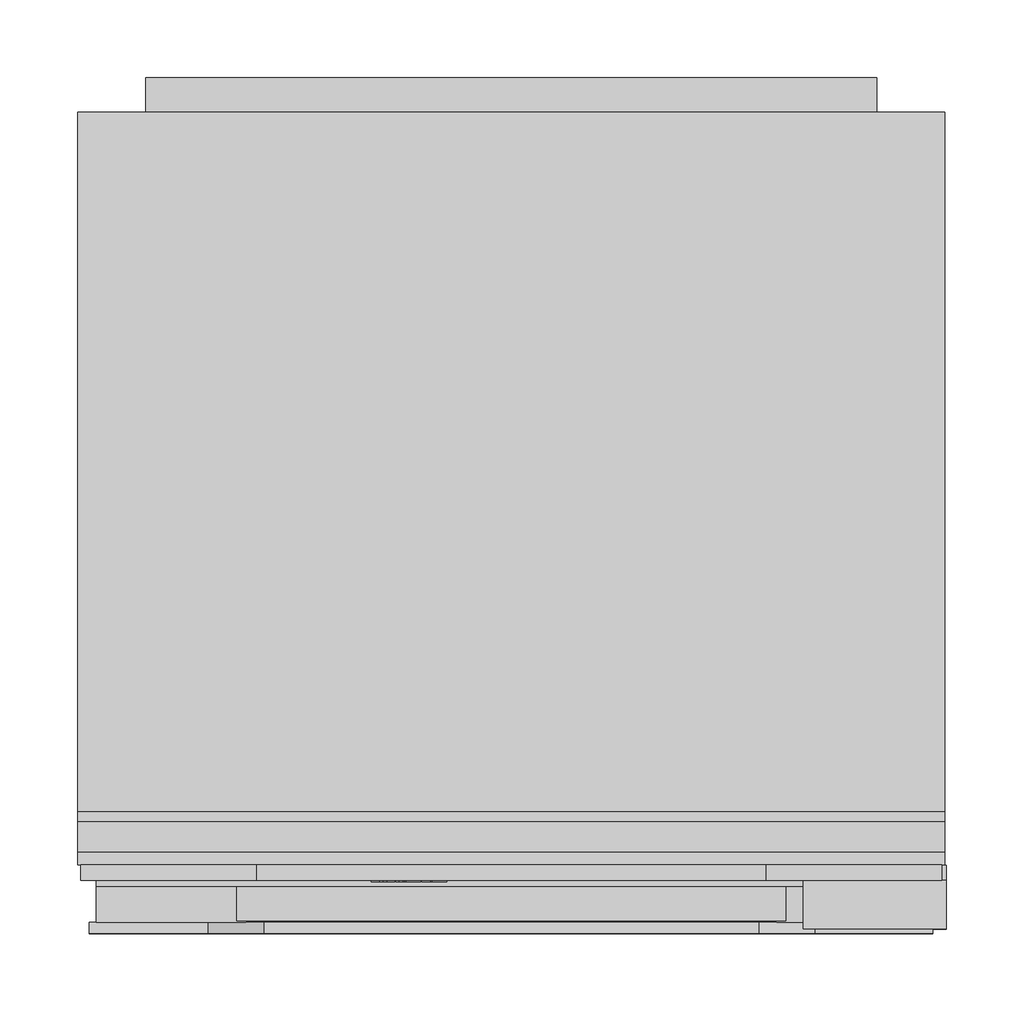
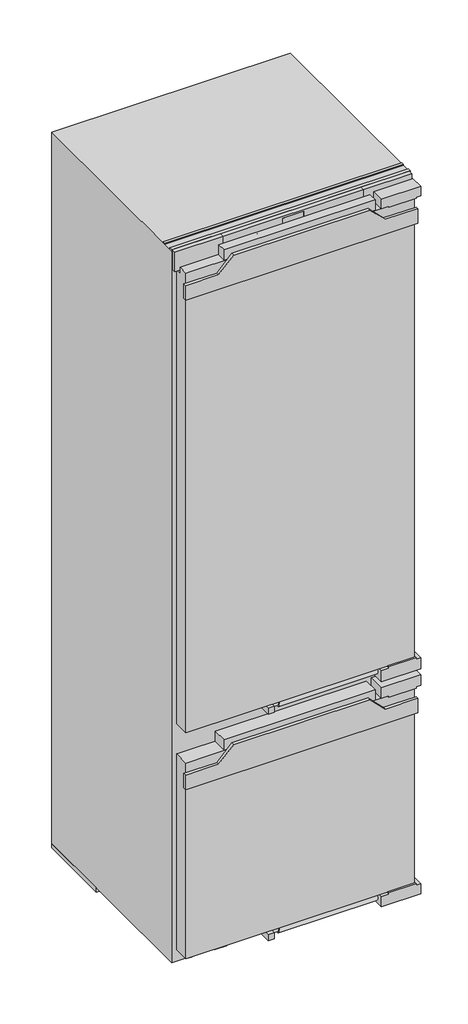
# Not in any storey: 1 proxy.
"""IFC4 building model written with IfcOpenShell, lengths in millimetres."""

import ifcopenshell
import ifcopenshell.guid

model = None  # the IFC model being written
_history = None  # IfcOwnerHistory: only IFC2X3 demands one
_inside = {}  # id of a spatial element -> (the spatial element, [elements in it])
_under = {}  # id of a project, library or spatial element -> (it, [spatial elements below it])
_declared = {}  # id of a project -> (the project, [libraries it declares])
_typed = {}  # id of a type object -> (the type object, [elements of that type])
_made_of = {}  # id of a material, layer set ... -> (it, [elements and type objects made of it])


def new_model(schema):
    """Start an empty IFC model of exactly this schema.

    Asked for "IFC4X3", IfcOpenShell would pick the latest addendum, in which some entities
    have other attributes; the version numbers below select the first issue.
    IFC2X3 requires an IfcOwnerHistory on every rooted entity: one is made here for all.
    """
    global model, _history
    if schema == "IFC4X3":
        model = ifcopenshell.file(schema_version=(4, 3, 0, 0))
    else:
        model = ifcopenshell.file(schema=schema)
    _inside.clear()
    _under.clear()
    _declared.clear()
    _typed.clear()
    _made_of.clear()
    _history = None
    if model.schema == "IFC2X3":
        org = make("IfcOrganization", Name="unknown")
        user = make(
            "IfcPersonAndOrganization",
            ThePerson=make("IfcPerson", FamilyName="unknown"),
            TheOrganization=org,
        )
        app = make(
            "IfcApplication",
            ApplicationDeveloper=org,
            Version="unknown",
            ApplicationFullName="unknown",
            ApplicationIdentifier="unknown",
        )
        _history = make(
            "IfcOwnerHistory",
            OwningUser=user,
            OwningApplication=app,
            ChangeAction="ADDED",
            CreationDate=0,
        )
    return model


def make(cls, **values):
    """One entity of the class cls with the attributes given. An attribute that is None is left unset."""
    return model.create_entity(
        cls, **{name: value for name, value in values.items() if value is not None}
    )


def rooted(cls, **values):
    """An entity with a GlobalId (a new one), such as an element, a storey or a relation."""
    return make(cls, GlobalId=ifcopenshell.guid.new(), OwnerHistory=_history, **values)


def si_unit(unit_type, name, prefix=None):
    """IfcSIUnit, for example si_unit("LENGTHUNIT", "METRE", prefix="MILLI")."""
    return make("IfcSIUnit", UnitType=unit_type, Prefix=prefix, Name=name)


def assignment(units):
    """IfcUnitAssignment: the units of a project."""
    return None if units is None else make("IfcUnitAssignment", Units=units)


def point(xyz):
    """IfcCartesianPoint."""
    return None if xyz is None else make("IfcCartesianPoint", Coordinates=xyz)


def direction(xyz):
    """IfcDirection."""
    return None if xyz is None else make("IfcDirection", DirectionRatios=xyz)


def frame(location, z_axis=None, x_axis=None):
    """IfcAxis2Placement3D, a coordinate frame: its origin and axes. An axis left out is left unset."""
    return make(
        "IfcAxis2Placement3D",
        Location=point(location),
        Axis=direction(z_axis),
        RefDirection=direction(x_axis),
    )


def frame_2d(location, x_axis=None):
    """IfcAxis2Placement2D, a coordinate frame in the plane: its origin and x axis."""
    return make(
        "IfcAxis2Placement2D", Location=point(location), RefDirection=direction(x_axis)
    )


def origin():
    """The frame at (0, 0, 0) with its axes left unset."""
    return frame((0.0, 0.0, 0.0))


def origin_with_axes():
    """The frame at (0, 0, 0) with the z axis (0, 0, 1) and the x axis (1, 0, 0) written out."""
    return frame((0.0, 0.0, 0.0), z_axis=(0.0, 0.0, 1.0), x_axis=(1.0, 0.0, 0.0))


def place(relative_to, where):
    """IfcLocalPlacement: puts the frame where relative to a parent placement (None: the world)."""
    return make(
        "IfcLocalPlacement", PlacementRelTo=relative_to, RelativePlacement=where
    )


def context(
    kind, dimensions, precision=None, world=None, true_north=None, identifier=None
):
    """IfcGeometricRepresentationContext, for example the 3D "Model" context."""
    return make(
        "IfcGeometricRepresentationContext",
        ContextIdentifier=identifier,
        ContextType=kind,
        CoordinateSpaceDimension=dimensions,
        Precision=precision,
        WorldCoordinateSystem=world,
        TrueNorth=true_north,
    )


def project(units=None, contexts=None):
    """IfcProject with its units and contexts."""
    return rooted(
        "IfcProject",
        Name="project",
        RepresentationContexts=contexts,
        UnitsInContext=assignment(units),
    )


def spatial(cls, under=None, at=None, **own):
    """A site, building, storey or space (cls), placed at a placement, below another one or the project."""
    s = rooted(cls, ObjectPlacement=at, **own)
    if under is not None:
        _under.setdefault(under.id(), (under, []))[1].append(s)
    return s


def polyline(points):
    """IfcPolyline through the points."""
    return make("IfcPolyline", Points=[point(p) for p in points])


def circle_curve(where, radius):
    """IfcCircle in the frame where."""
    return make("IfcCircle", Position=where, Radius=radius)


def ellipse_curve(where, semi_axis1, semi_axis2):
    """IfcEllipse in the frame where."""
    return make(
        "IfcEllipse", Position=where, SemiAxis1=semi_axis1, SemiAxis2=semi_axis2
    )


def trimmed(basis, trim1, trim2, sense, master):
    """IfcTrimmedCurve: the piece of a basis curve between two trims."""
    return make(
        "IfcTrimmedCurve",
        BasisCurve=basis,
        Trim1=trim1,
        Trim2=trim2,
        SenseAgreement=sense,
        MasterRepresentation=master,
    )


def segment(curve, same_sense, transition):
    """IfcCompositeCurveSegment."""
    return make(
        "IfcCompositeCurveSegment",
        Transition=transition,
        SameSense=same_sense,
        ParentCurve=curve,
    )


def composite_curve(segments, self_intersect=None):
    """IfcCompositeCurve: segments joined end to end."""
    return make("IfcCompositeCurve", Segments=segments, SelfIntersect=self_intersect)


def outline(outer, holes=None, kind="AREA"):
    """IfcArbitraryClosedProfileDef: a profile drawn as a closed curve; with holes, ...WithVoids."""
    if holes is None:
        return make("IfcArbitraryClosedProfileDef", ProfileType=kind, OuterCurve=outer)
    return make(
        "IfcArbitraryProfileDefWithVoids",
        ProfileType=kind,
        OuterCurve=outer,
        InnerCurves=holes,
    )


def extrude(swept, where, along, depth):
    """IfcExtrudedAreaSolid: the profile swept, set in the frame where, extruded along a direction by depth."""
    return make(
        "IfcExtrudedAreaSolid",
        SweptArea=swept,
        Position=where,
        ExtrudedDirection=direction(along),
        Depth=depth,
    )


def faces_of(points, faces, orient=None, outer=None):
    """IfcFace entities. A face is a list of loops; a loop is a list of indices into points, from 0.

    orient and outer hold one flag for each loop. By default every Orientation is true, the
    first loop of a face is its IfcFaceOuterBound and the others are IfcFaceBound.
    """
    made = []
    for i, loops in enumerate(faces):
        bounds = []
        for j, loop in enumerate(loops):
            is_outer = j == 0 if outer is None else outer[i][j]
            bounds.append(
                make(
                    "IfcFaceOuterBound" if is_outer else "IfcFaceBound",
                    Bound=make("IfcPolyLoop", Polygon=[points[k] for k in loop]),
                    Orientation=True if orient is None else orient[i][j],
                )
            )
        made.append(make("IfcFace", Bounds=bounds))
    return made


def faceted_brep(points, faces, orient=None, outer=None, voids=None):
    """IfcFacetedBrep: a solid bounded by flat faces; with voids (closed shells), ...WithVoids."""
    shared = [point(p) for p in points]
    hull = make("IfcClosedShell", CfsFaces=faces_of(shared, faces, orient, outer))
    if voids is None:
        return make("IfcFacetedBrep", Outer=hull)
    return make(
        "IfcFacetedBrepWithVoids",
        Outer=hull,
        Voids=[
            make(cls, CfsFaces=faces_of(shared, fs, o, b)) for cls, fs, o, b in voids
        ],
    )


def shape(context_of_items, identifier, shape_type, items):
    """IfcShapeRepresentation: the items that make up one representation, for example the "Body"."""
    return make(
        "IfcShapeRepresentation",
        ContextOfItems=context_of_items,
        RepresentationIdentifier=identifier,
        RepresentationType=shape_type,
        Items=items,
    )


def source(mapping_origin, context_of_items, identifier, shape_type, items):
    """IfcRepresentationMap: a shape defined once, which mapped items show again and again."""
    return make(
        "IfcRepresentationMap",
        MappingOrigin=mapping_origin,
        MappedRepresentation=shape(context_of_items, identifier, shape_type, items),
    )


def transform(
    local_origin,
    x_axis=None,
    y_axis=None,
    z_axis=None,
    scale=None,
    scale2=None,
    scale3=None,
    uniform=True,
):
    """IfcCartesianTransformationOperator3D, or its non-uniform kind. x_axis, y_axis, z_axis: its Axis1, 2, 3."""
    if uniform:
        return make(
            "IfcCartesianTransformationOperator3D",
            Axis1=direction(x_axis),
            Axis2=direction(y_axis),
            LocalOrigin=point(local_origin),
            Scale=scale,
            Axis3=direction(z_axis),
        )
    return make(
        "IfcCartesianTransformationOperator3DnonUniform",
        Axis1=direction(x_axis),
        Axis2=direction(y_axis),
        LocalOrigin=point(local_origin),
        Scale=scale,
        Axis3=direction(z_axis),
        Scale2=scale2,
        Scale3=scale3,
    )


def mapped(mapping_source, mapping_target):
    """IfcMappedItem: shows the shape of a source again, moved by a transform."""
    return make(
        "IfcMappedItem", MappingSource=mapping_source, MappingTarget=mapping_target
    )


def made_of(thing, what):
    """Note that an element or type object is made of a material, layer set ...; save() writes the relation."""
    if what is not None:
        _made_of.setdefault(what.id(), (what, []))[1].append(thing)
    return thing


def element(
    cls,
    number,
    at=None,
    inside=None,
    cuts=None,
    type_object=None,
    material=None,
    context=None,
    identifier="Body",
    shape_type=None,
    held_by="IfcProductDefinitionShape",
    body=None,
    shapes=None,
    **own,
):
    """One element of the class cls, such as IfcWall. Its Tag is "e" and its number.

    at: its placement. inside: the storey or other place that contains it. cuts: it is an
    opening in that element (IfcRelVoidsElement). A single representation is given by context,
    identifier, shape_type and body (its items); several are given by shapes. held_by: the class
    of the entity that holds the representations. save() writes the other relations.
    """
    e = rooted(cls, Tag="e%d" % number, ObjectPlacement=at, **own)
    if body is not None:
        shapes = [shape(context, identifier, shape_type, body)]
    if shapes is not None:
        e.Representation = make(held_by, Representations=shapes)
    if inside is not None:
        _inside.setdefault(inside.id(), (inside, []))[1].append(e)
    if cuts is not None:
        rooted(
            "IfcRelVoidsElement", RelatingBuildingElement=cuts, RelatedOpeningElement=e
        )
    if type_object is not None:
        _typed.setdefault(type_object.id(), (type_object, []))[1].append(e)
    return made_of(e, material)


def aggregate(whole, parts):
    """IfcRelAggregates: a whole, such as a stair, and the parts it consists of."""
    return rooted("IfcRelAggregates", RelatingObject=whole, RelatedObjects=parts)


def save(model, path):
    """Write the relations noted so far, then the file.

    IfcRelAggregates (storeys below a building ...), IfcRelContainedInSpatialStructure (elements
    in a storey), IfcRelDefinesByType, IfcRelAssociatesMaterial and IfcRelDeclares: one each for
    every whole, place, type object, material and project.
    """
    for whole, parts in _under.values():
        aggregate(whole, parts)
    for where, things in _inside.values():
        rooted(
            "IfcRelContainedInSpatialStructure",
            RelatedElements=things,
            RelatingStructure=where,
        )
    for kind, things in _typed.values():
        rooted("IfcRelDefinesByType", RelatedObjects=things, RelatingType=kind)
    for what, things in _made_of.values():
        rooted("IfcRelAssociatesMaterial", RelatedObjects=things, RelatingMaterial=what)
    for by, libraries in _declared.values():
        rooted("IfcRelDeclares", RelatingContext=by, RelatedDefinitions=libraries)
    model.write(path)


def plane_surface(at):
    """IfcPlane: the flat surface through the origin of the frame at, square to its z axis."""
    return make("IfcPlane", Position=at)


def cylinder_surface(at, radius):
    """IfcCylindricalSurface: all points at the distance radius from the z axis of the frame at."""
    return make("IfcCylindricalSurface", Position=at, Radius=radius)


def revolved_surface(curve, axis_point, axis_direction):
    """IfcSurfaceOfRevolution: the curve turned about the line through axis_point along axis_direction."""
    return make(
        "IfcSurfaceOfRevolution",
        SweptCurve=make("IfcArbitraryOpenProfileDef", ProfileType="CURVE", Curve=curve),
        AxisPosition=make("IfcAxis1Placement", Location=point(axis_point), Axis=direction(axis_direction)),
    )


def extruded_surface(curve, direction_of_extrusion, depth):
    """IfcSurfaceOfLinearExtrusion: the curve pushed along a direction by depth."""
    return make(
        "IfcSurfaceOfLinearExtrusion",
        SweptCurve=make("IfcArbitraryOpenProfileDef", ProfileType="CURVE", Curve=curve),
        ExtrudedDirection=direction(direction_of_extrusion),
        Depth=depth,
    )


def advanced_brep(points, edges, surfaces, faces):
    """IfcAdvancedBrep: a solid bounded by faces that lie on surfaces and meet in shared edges.

    An edge is (start, end): straight between two places in points (the first is 0);
    or (start, end, curve); or (start, end, curve, False) where it runs against its curve.
    A face is (place in surfaces, loops), or (place, loops, False) where it looks against
    its surface's normal. A loop lists edges by number (the first is 1), with a minus sign
    where the edge is run from its end to its start. The first loop is the outer one.
    """
    corners = [point(p) for p in points]
    vertices = [make("IfcVertexPoint", VertexGeometry=c) for c in corners]
    made = []
    for start, end, *more in edges:
        made.append(
            make(
                "IfcEdgeCurve",
                EdgeStart=vertices[start],
                EdgeEnd=vertices[end],
                EdgeGeometry=more[0] if more else make("IfcPolyline", Points=[corners[start], corners[end]]),
                SameSense=more[1] if len(more) > 1 else True,
            )
        )
    hull = []
    for where, loops, *sense in faces:
        bounds = []
        for j, loop in enumerate(loops):
            ring = [make("IfcOrientedEdge", EdgeElement=made[abs(k) - 1], Orientation=k > 0) for k in loop]
            bounds.append(
                make(
                    "IfcFaceOuterBound" if j == 0 else "IfcFaceBound",
                    Bound=make("IfcEdgeLoop", EdgeList=ring),
                    Orientation=True,
                )
            )
        hull.append(make("IfcAdvancedFace", Bounds=bounds, FaceSurface=surfaces[where], SameSense=sense[0] if sense else True))
    return make("IfcAdvancedBrep", Outer=make("IfcClosedShell", CfsFaces=hull))


def specialty_equipment_3f4a5575(model_context):
    return source(origin(), model_context, "Body", "SolidModel", [
        advanced_brep(
        [(-46.64, 33.0, 1742.896), (-46.64, 33.0, 1743.704), (-41.288, 33.0, 1743.704), (-50.6, 33.0, 1743.704), (-48.4, 33.0, 1741.0), (-41.424, 33.0, 1742.896), (-43.84, 33.0, 1742.896), (-45.744, 33.0, 1742.0), (-46.64, 33.0, 1744.728), (-46.64, 33.0, 1745.6), (-45.272, 33.0, 1745.6), (-45.272, 33.0, 1744.728), (-46.64, 34.0, 1742.896), (-45.744, 34.0, 1742.0), (-43.84, 34.0, 1742.896), (-41.424, 34.0, 1742.896), (-48.4, 34.0, 1741.0), (-50.6, 34.0, 1743.704), (-41.288, 34.0, 1743.704), (-46.64, 34.0, 1743.704), (-46.64, 34.0, 1744.728), (-45.272, 34.0, 1744.728), (-45.272, 34.0, 1745.6), (-46.64, 34.0, 1745.6)],
        [
            (0, 1),
            (1, 2),
            (2, 3, ellipse_curve(frame((-45.944, 33.0, 1743.704), z_axis=(0.0, -1.0, 0.0), x_axis=(-1.0, 0.0, 0.0)), 4.656, 3.848)),
            (3, 4, circle_curve(frame((-47.5039564, 33.0, 1743.976), z_axis=(0.0, -1.0, 0.0), x_axis=(0.0, 0.0, -1.0)), 3.1079688)),
            (4, 5, circle_curve(frame((-46.0372064, 33.0, 1746.088), z_axis=(0.0, -1.0, 0.0), x_axis=(0.0, 0.0, -1.0)), 5.6098607)),
            (5, 6),
            (6, 7, circle_curve(frame((-45.3529412, 33.0, 1743.64), z_axis=(0.0, 1.0, 0.0), x_axis=(0.0, 0.0, -1.0)), 1.6859795)),
            (7, 0, circle_curve(frame((-45.744, 33.0, 1742.896), z_axis=(0.0, 1.0, 0.0), x_axis=(0.0, 0.0, -1.0)), 0.896)),
            (8, 9),
            (9, 10, circle_curve(frame((-45.956, 33.0, 1745.6), z_axis=(0.0, 1.0, 0.0), x_axis=(0.0, 0.0, -1.0)), 0.684)),
            (10, 11),
            (11, 8),
            (12, 13, circle_curve(frame((-45.744, 34.0, 1742.896), z_axis=(0.0, -1.0, 0.0), x_axis=(0.0, 0.0, -1.0)), 0.896)),
            (13, 14, circle_curve(frame((-45.3529412, 34.0, 1743.64), z_axis=(0.0, -1.0, 0.0), x_axis=(0.0, 0.0, -1.0)), 1.6859795)),
            (14, 15),
            (15, 16, circle_curve(frame((-46.0372064, 34.0, 1746.088), z_axis=(0.0, 1.0, 0.0), x_axis=(0.0, 0.0, -1.0)), 5.6098607)),
            (16, 17, circle_curve(frame((-47.5039564, 34.0, 1743.976), z_axis=(0.0, 1.0, 0.0), x_axis=(0.0, 0.0, -1.0)), 3.1079688)),
            (17, 18, ellipse_curve(frame((-45.944, 34.0, 1743.704), z_axis=(0.0, 1.0, 0.0), x_axis=(-1.0, 0.0, 0.0)), 4.656, 3.848)),
            (18, 19),
            (19, 12),
            (20, 21),
            (21, 22),
            (22, 23, circle_curve(frame((-45.956, 34.0, 1745.6), z_axis=(0.0, -1.0, 0.0), x_axis=(0.0, 0.0, -1.0)), 0.684)),
            (23, 20),
            (0, 12),
            (19, 1),
            (18, 2),
            (5, 15),
            (14, 6),
            (17, 3),
            (13, 7),
            (16, 4),
            (8, 20),
            (23, 9),
            (22, 10),
            (21, 11),
        ],
        [
            plane_surface(frame((-46.64, 33.0, 1743.704), z_axis=(0.0, -1.0, 0.0), x_axis=(0.0, 0.0, 1.0))),
            plane_surface(frame((-46.64, 34.0, 1743.704), z_axis=(0.0, 1.0, 0.0), x_axis=(0.0, 0.0, -1.0))),
            plane_surface(frame((-46.64, 33.0, 1742.896), z_axis=(1.0, 0.0, 0.0), x_axis=(0.0, 1.0, 0.0))),
            plane_surface(frame((-46.64, 33.0, 1743.704), z_axis=(0.0, 0.0, -1.0), x_axis=(0.0, 1.0, 0.0))),
            plane_surface(frame((-41.424, 33.0, 1742.896), z_axis=(0.0, 0.0, 1.0), x_axis=(0.0, 1.0, 0.0))),
            extruded_surface(trimmed(ellipse_curve(frame((-45.944, 35.0, 1743.704), z_axis=(0.0, -1.0, 0.0), x_axis=(-1.0, 0.0, 0.0)), 4.656, 3.848), [point((-41.288, 35.0, 1743.704))], [point((-50.6, 35.0, 1743.704))], True, "CARTESIAN"), (0.0, -1.0, 0.0), 1.0),
            revolved_surface(polyline([(-45.3529412, 34.0, 1741.9540205), (-45.3529412, 33.0, 1741.9540205)]), (-45.3529412, 34.0, 1743.64), (0.0, 1.0, 0.0)),
            revolved_surface(polyline([(-45.744, 34.0, 1742.0), (-45.744, 33.0, 1742.0)]), (-45.744, 34.0, 1742.896), (0.0, 1.0, 0.0)),
            cylinder_surface(frame((-47.5039564, 34.0, 1743.976), z_axis=(0.0, -1.0, 0.0), x_axis=(0.0, 0.0, -1.0)), 3.1079688),
            cylinder_surface(frame((-46.0372064, 34.0, 1746.088), z_axis=(0.0, -1.0, 0.0), x_axis=(0.0, 0.0, -1.0)), 5.6098607),
            plane_surface(frame((-46.64, 33.0, 1744.728), z_axis=(1.0, 0.0, 0.0), x_axis=(0.0, 1.0, 0.0))),
            revolved_surface(polyline([(-45.956, 34.0, 1744.916), (-45.956, 33.0, 1744.916)]), (-45.956, 34.0, 1745.6), (0.0, 1.0, 0.0)),
            plane_surface(frame((-45.272, 33.0, 1745.6), z_axis=(-1.0, 0.0, 0.0), x_axis=(0.0, 1.0, 0.0))),
            plane_surface(frame((-45.272, 33.0, 1744.728), z_axis=(0.0, 0.0, 1.0), x_axis=(0.0, 1.0, 0.0))),
        ],
        [
            (0, [[1, 2, 3, 4, 5, 6, 7, 8], [9, 10, 11, 12]]),
            (1, [[13, 14, 15, 16, 17, 18, 19, 20], [21, 22, 23, 24]]),
            (2, [[-1, 25, -20, 26]]),
            (3, [[-2, -26, -19, 27]]),
            (4, [[-6, 28, -15, 29]]),
            (5, [[-3, -27, -18, 30]]),
            (6, [[-7, -29, -14, 31]]),
            (7, [[-8, -31, -13, -25]]),
            (8, [[-4, -30, -17, 32]]),
            (9, [[-5, -32, -16, -28]]),
            (10, [[-9, 33, -24, 34]]),
            (11, [[-10, -34, -23, 35]]),
            (12, [[-11, -35, -22, 36]]),
            (13, [[-12, -36, -21, -33]]),
        ],
    ),
        advanced_brep(
        [(-63.336, 33.0, 1742.896), (-63.336, 33.0, 1743.704), (-57.984, 33.0, 1743.704), (-67.296, 33.0, 1743.704), (-65.096, 33.0, 1741.0), (-58.12, 33.0, 1742.896), (-60.536, 33.0, 1742.896), (-62.44, 33.0, 1742.0), (-63.336, 33.0, 1744.728), (-63.336, 33.0, 1745.6), (-61.968, 33.0, 1745.6), (-61.968, 33.0, 1744.728), (-63.336, 34.0, 1742.896), (-62.44, 34.0, 1742.0), (-60.536, 34.0, 1742.896), (-58.12, 34.0, 1742.896), (-65.096, 34.0, 1741.0), (-67.296, 34.0, 1743.704), (-57.984, 34.0, 1743.704), (-63.336, 34.0, 1743.704), (-63.336, 34.0, 1744.728), (-61.968, 34.0, 1744.728), (-61.968, 34.0, 1745.6), (-63.336, 34.0, 1745.6)],
        [
            (0, 1),
            (1, 2),
            (2, 3, ellipse_curve(frame((-62.64, 33.0, 1743.704), z_axis=(0.0, -1.0, 0.0), x_axis=(-1.0, 0.0, 0.0)), 4.656, 3.848)),
            (3, 4, circle_curve(frame((-64.1999564, 33.0, 1743.976), z_axis=(0.0, -1.0, 0.0), x_axis=(0.0, 0.0, -1.0)), 3.1079688)),
            (4, 5, circle_curve(frame((-62.7332064, 33.0, 1746.088), z_axis=(0.0, -1.0, 0.0), x_axis=(0.0, 0.0, -1.0)), 5.6098607)),
            (5, 6),
            (6, 7, circle_curve(frame((-62.0489412, 33.0, 1743.64), z_axis=(0.0, 1.0, 0.0), x_axis=(0.0, 0.0, -1.0)), 1.6859795)),
            (7, 0, circle_curve(frame((-62.44, 33.0, 1742.896), z_axis=(0.0, 1.0, 0.0), x_axis=(0.0, 0.0, -1.0)), 0.896)),
            (8, 9),
            (9, 10, circle_curve(frame((-62.652, 33.0, 1745.6), z_axis=(0.0, 1.0, 0.0), x_axis=(0.0, 0.0, -1.0)), 0.684)),
            (10, 11),
            (11, 8),
            (12, 13, circle_curve(frame((-62.44, 34.0, 1742.896), z_axis=(0.0, -1.0, 0.0), x_axis=(0.0, 0.0, -1.0)), 0.896)),
            (13, 14, circle_curve(frame((-62.0489412, 34.0, 1743.64), z_axis=(0.0, -1.0, 0.0), x_axis=(0.0, 0.0, -1.0)), 1.6859795)),
            (14, 15),
            (15, 16, circle_curve(frame((-62.7332064, 34.0, 1746.088), z_axis=(0.0, 1.0, 0.0), x_axis=(0.0, 0.0, -1.0)), 5.6098607)),
            (16, 17, circle_curve(frame((-64.1999564, 34.0, 1743.976), z_axis=(0.0, 1.0, 0.0), x_axis=(0.0, 0.0, -1.0)), 3.1079688)),
            (17, 18, ellipse_curve(frame((-62.64, 34.0, 1743.704), z_axis=(0.0, 1.0, 0.0), x_axis=(-1.0, 0.0, 0.0)), 4.656, 3.848)),
            (18, 19),
            (19, 12),
            (20, 21),
            (21, 22),
            (22, 23, circle_curve(frame((-62.652, 34.0, 1745.6), z_axis=(0.0, -1.0, 0.0), x_axis=(0.0, 0.0, -1.0)), 0.684)),
            (23, 20),
            (0, 12),
            (19, 1),
            (18, 2),
            (5, 15),
            (14, 6),
            (17, 3),
            (13, 7),
            (16, 4),
            (8, 20),
            (23, 9),
            (22, 10),
            (21, 11),
        ],
        [
            plane_surface(frame((-63.336, 33.0, 1743.704), z_axis=(0.0, -1.0, 0.0), x_axis=(0.0, 0.0, 1.0))),
            plane_surface(frame((-63.336, 34.0, 1743.704), z_axis=(0.0, 1.0, 0.0), x_axis=(0.0, 0.0, -1.0))),
            plane_surface(frame((-63.336, 33.0, 1742.896), z_axis=(1.0, 0.0, 0.0), x_axis=(0.0, 1.0, 0.0))),
            plane_surface(frame((-63.336, 33.0, 1743.704), z_axis=(0.0, 0.0, -1.0), x_axis=(0.0, 1.0, 0.0))),
            plane_surface(frame((-58.12, 33.0, 1742.896), z_axis=(0.0, 0.0, 1.0), x_axis=(0.0, 1.0, 0.0))),
            extruded_surface(trimmed(ellipse_curve(frame((-62.64, 35.0, 1743.704), z_axis=(0.0, -1.0, 0.0), x_axis=(-1.0, 0.0, 0.0)), 4.656, 3.848), [point((-57.984, 35.0, 1743.704))], [point((-67.296, 35.0, 1743.704))], True, "CARTESIAN"), (0.0, -1.0, 0.0), 1.0),
            revolved_surface(polyline([(-62.0489412, 34.0, 1741.9540205), (-62.0489412, 33.0, 1741.9540205)]), (-62.0489412, 34.0, 1743.64), (0.0, 1.0, 0.0)),
            revolved_surface(polyline([(-62.44, 34.0, 1742.0), (-62.44, 33.0, 1742.0)]), (-62.44, 34.0, 1742.896), (0.0, 1.0, 0.0)),
            cylinder_surface(frame((-64.1999564, 34.0, 1743.976), z_axis=(0.0, -1.0, 0.0), x_axis=(0.0, 0.0, -1.0)), 3.1079688),
            cylinder_surface(frame((-62.7332064, 34.0, 1746.088), z_axis=(0.0, -1.0, 0.0), x_axis=(0.0, 0.0, -1.0)), 5.6098607),
            plane_surface(frame((-63.336, 33.0, 1744.728), z_axis=(1.0, 0.0, 0.0), x_axis=(0.0, 1.0, 0.0))),
            revolved_surface(polyline([(-62.652, 34.0, 1744.916), (-62.652, 33.0, 1744.916)]), (-62.652, 34.0, 1745.6), (0.0, 1.0, 0.0)),
            plane_surface(frame((-61.968, 33.0, 1745.6), z_axis=(-1.0, 0.0, 0.0), x_axis=(0.0, 1.0, 0.0))),
            plane_surface(frame((-61.968, 33.0, 1744.728), z_axis=(0.0, 0.0, 1.0), x_axis=(0.0, 1.0, 0.0))),
        ],
        [
            (0, [[1, 2, 3, 4, 5, 6, 7, 8], [9, 10, 11, 12]]),
            (1, [[13, 14, 15, 16, 17, 18, 19, 20], [21, 22, 23, 24]]),
            (2, [[-1, 25, -20, 26]]),
            (3, [[-2, -26, -19, 27]]),
            (4, [[-6, 28, -15, 29]]),
            (5, [[-3, -27, -18, 30]]),
            (6, [[-7, -29, -14, 31]]),
            (7, [[-8, -31, -13, -25]]),
            (8, [[-4, -30, -17, 32]]),
            (9, [[-5, -32, -16, -28]]),
            (10, [[-9, 33, -24, 34]]),
            (11, [[-10, -34, -23, 35]]),
            (12, [[-11, -35, -22, 36]]),
            (13, [[-12, -36, -21, -33]]),
        ],
    ),
        extrude(outline(polyline([(1748.528, -72.08), (1747.232, -71.472), (1748.496, -68.76), (1749.792, -69.36), (1748.528, -72.08)])), frame((0.0, 33.0, 0.0), z_axis=(0.0, 1.0, 0.0), x_axis=(0.0, 0.0, 1.0)), (0.0, 0.0, 1.0), 1.0),
        extrude(outline(polyline([(1747.056, -74.056), (1745.624, -74.056), (1745.624, -73.104), (1742.344, -73.104), (1742.344, -74.056), (1741.0, -74.056), (1741.0, -67.744), (1742.344, -67.744), (1742.344, -68.672), (1747.056, -68.672), (1747.056, -74.056)])), frame((0.0, 33.0, 0.0), z_axis=(0.0, 1.0, 0.0), x_axis=(0.0, 0.0, 1.0)), (0.0, 0.0, 1.0), 1.0),
        extrude(outline(polyline([(1747.696, -57.536), (1747.696, -56.576), (1742.344, -56.576), (1742.344, -57.536), (1741.0, -57.536), (1741.0, -51.048), (1742.344, -51.048), (1742.344, -52.032), (1749.0, -52.032), (1749.0, -57.536), (1747.696, -57.536)])), frame((0.0, 33.0, 0.0), z_axis=(0.0, 1.0, 0.0), x_axis=(0.0, 0.0, 1.0)), (0.0, 0.0, 1.0), 1.0),
        extrude(outline(polyline([(1747.696, -90.0), (1747.696, -89.032), (1742.344, -89.032), (1742.344, -90.0), (1741.0, -90.0), (1741.0, -86.48), (1742.344, -86.48), (1742.344, -87.44), (1745.7471247, -87.44), (1741.0, -83.864), (1745.8152223, -80.272), (1742.344, -80.272), (1742.344, -81.256), (1741.0, -81.256), (1741.0, -74.872), (1742.344, -74.872), (1742.344, -75.888), (1747.696, -75.888), (1747.696, -74.872), (1749.0, -74.872), (1749.0, -79.744), (1746.0, -82.08), (1749.0, -84.424), (1749.0, -90.0), (1747.696, -90.0)])), frame((0.0, 33.0, 0.0), z_axis=(0.0, 1.0, 0.0), x_axis=(0.0, 0.0, 1.0)), (0.0, 0.0, 1.0), 1.0),
        extrude(outline(polyline([(461.0, 271.0), (497.0, 271.0), (497.0, 195.0), (533.0, 159.0), (533.0, -159.0), (497.0, -195.0), (497.0, -271.0), (461.0, -271.0), (461.0, 271.0)])), frame((0.0, 0.0, 0.0), z_axis=(0.0, 1.0, 0.0), x_axis=(0.0, 0.0, 1.0)), (0.0, 0.0, 1.0), 7.0),
        extrude(outline(polyline([(1670.0, 271.0), (1706.0, 271.0), (1706.0, 195.0), (1742.0, 159.0), (1742.0, -159.0), (1706.0, -195.0), (1706.0, -271.0), (1670.0, -271.0), (1670.0, 271.0)])), frame((0.0, 0.0, 0.0), z_axis=(0.0, 1.0, 0.0), x_axis=(0.0, 0.0, 1.0)), (0.0, 0.0, 1.0), 7.0),
        extrude(outline(composite_curve([segment(trimmed(circle_curve(frame_2d((-65.5, 25.0)), 6.5), [point((-72.0, 25.0))], [point((-59.0, 25.0))], False, "CARTESIAN"), True, "CONTINUOUS"), segment(trimmed(circle_curve(frame_2d((-65.5, 25.0)), 6.5), [point((-59.0, 25.0))], [point((-72.0, 25.0))], False, "CARTESIAN"), True, "CONTINUOUS")], self_intersect=False)), frame((0.0, 0.0, 588.0), z_axis=(0.0, 0.0, 1.0), x_axis=(1.0, 0.0, 0.0)), (0.0, 0.0, 1.0), 8.0),
        extrude(outline(polyline([(-74.0, 42.0), (-59.0, 42.0), (-59.0, 8.0), (-74.0, 8.0), (-74.0, 42.0)])), frame((0.0, 0.0, 573.3963013), z_axis=(0.0, 0.0, 1.0), x_axis=(1.0, 0.0, 0.0)), (0.0, 0.0, 1.0), 14.6036987),
        extrude(outline(composite_curve([segment(trimmed(circle_curve(frame_2d((-65.5, 25.0)), 6.5), [point((-72.0, 25.0))], [point((-59.0, 25.0))], False, "CARTESIAN"), True, "CONTINUOUS"), segment(trimmed(circle_curve(frame_2d((-65.5, 25.0)), 6.5), [point((-59.0, 25.0))], [point((-72.0, 25.0))], False, "CARTESIAN"), True, "CONTINUOUS")], self_intersect=False)), frame((0.0, 0.0, 29.0), z_axis=(0.0, 0.0, 1.0), x_axis=(1.0, 0.0, 0.0)), (0.0, 0.0, 1.0), 9.0),
        extrude(outline(polyline([(-74.0, 42.0), (-59.0, 42.0), (-59.0, 8.0), (-74.0, 8.0), (-74.0, 42.0)])), frame((0.0, 0.0, 14.3963013), z_axis=(0.0, 0.0, 1.0), x_axis=(1.0, 0.0, 0.0)), (0.0, 0.0, 1.0), 14.6036987),
        extrude(outline(polyline([(592.0, 205.5), (592.0, 187.5), (565.0, 187.5), (565.0, 279.5), (592.0, 279.5), (592.0, 269.5), (596.0, 269.5), (596.0, 205.5), (592.0, 205.5)])), frame((0.0, 3.0, 0.0), z_axis=(0.0, 1.0, 0.0), x_axis=(0.0, 0.0, 1.0)), (0.0, 0.0, 1.0), 41.0),
        extrude(outline(polyline([(176.5, 8.0), (-176.5, 8.0), (-176.5, 30.0), (176.5, 30.0), (176.5, 8.0)])), frame((0.0, 0.0, 1731.0), z_axis=(0.0, 0.0, 1.0), x_axis=(1.0, 0.0, 0.0)), (0.0, 0.0, 1.0), 25.0),
        extrude(outline(polyline([(7.0, 596.0), (7.0, 1731.0), (30.0, 1731.0), (30.0, 1715.0), (44.0, 1715.0), (44.0, 596.0), (7.0, 596.0)])), frame((-266.5, 0.0, 0.0), z_axis=(1.0, 0.0, 0.0), x_axis=(0.0, 1.0, 0.0)), (0.0, 0.0, 1.0), 533.0),
        extrude(outline(polyline([(-176.5, 44.0), (176.5, 44.0), (176.5, 8.0), (-176.5, 8.0), (-176.5, 44.0)])), frame((0.0, 0.0, 521.0), z_axis=(0.0, 0.0, 1.0), x_axis=(1.0, 0.0, 0.0)), (0.0, 0.0, 1.0), 25.0),
        extrude(outline(polyline([(550.0, 279.5), (550.0, 187.5), (524.0, 187.5), (524.0, 205.5), (521.0, 205.5), (521.0, 269.5), (524.0, 269.5), (524.0, 279.5), (550.0, 279.5)])), frame((0.0, 3.0, 0.0), z_axis=(0.0, 1.0, 0.0), x_axis=(0.0, 0.0, 1.0)), (0.0, 0.0, 1.0), 41.0),
        extrude(outline(polyline([(34.0, 205.5), (34.0, 187.5), (10.0, 187.5), (10.0, 279.5), (34.0, 279.5), (34.0, 269.5), (38.0, 269.5), (38.0, 205.5), (34.0, 205.5)])), frame((0.0, 3.0, 0.0), z_axis=(0.0, 1.0, 0.0), x_axis=(0.0, 0.0, 1.0)), (0.0, 0.0, 1.0), 41.0),
        extrude(outline(polyline([(1733.0, 269.5), (1733.0, 279.5), (1757.0, 279.5), (1757.0, 187.5), (1733.0, 187.5), (1733.0, 205.5), (1731.0, 205.5), (1731.0, 269.5), (1733.0, 269.5)])), frame((0.0, 3.0, 0.0), z_axis=(0.0, 1.0, 0.0), x_axis=(0.0, 0.0, 1.0)), (0.0, 0.0, 1.0), 31.0),
        extrude(outline(polyline([(-266.5, 44.0), (266.5, 44.0), (266.5, 7.0), (-266.5, 7.0), (-266.5, 44.0)])), frame((0.0, 0.0, 38.0), z_axis=(0.0, 0.0, 1.0), x_axis=(1.0, 0.0, 0.0)), (0.0, 0.0, 1.0), 483.0),
        extrude(outline(composite_curve([segment(trimmed(circle_curve(frame_2d((25.0, 582.0)), 6.0), [point((25.0, 576.0))], [point((25.0, 588.0))], False, "CARTESIAN"), True, "CONTINUOUS"), segment(trimmed(circle_curve(frame_2d((25.0, 582.0)), 6.0), [point((25.0, 588.0))], [point((25.0, 576.0))], False, "CARTESIAN"), True, "CONTINUOUS")], self_intersect=False)), frame((-59.0, 0.0, 0.0), z_axis=(1.0, 0.0, 0.0), x_axis=(0.0, 1.0, 0.0)), (0.0, 0.0, 1.0), 16.0),
        extrude(outline(composite_curve([segment(trimmed(circle_curve(frame_2d((25.0, 582.0)), 9.0), [point((25.0, 573.0))], [point((25.0, 591.0))], False, "CARTESIAN"), True, "CONTINUOUS"), segment(trimmed(circle_curve(frame_2d((25.0, 582.0)), 9.0), [point((25.0, 591.0))], [point((25.0, 573.0))], False, "CARTESIAN"), True, "CONTINUOUS")], self_intersect=False)), frame((-43.0, 0.0, 0.0), z_axis=(1.0, 0.0, 0.0), x_axis=(0.0, 1.0, 0.0)), (0.0, 0.0, 1.0), 230.5),
        extrude(outline(composite_curve([segment(trimmed(circle_curve(frame_2d((25.0, 23.0)), 9.0), [point((25.0, 14.0))], [point((25.0, 32.0))], False, "CARTESIAN"), True, "CONTINUOUS"), segment(trimmed(circle_curve(frame_2d((25.0, 23.0)), 9.0), [point((25.0, 32.0))], [point((25.0, 14.0))], False, "CARTESIAN"), True, "CONTINUOUS")], self_intersect=False)), frame((-43.0, 0.0, 0.0), z_axis=(1.0, 0.0, 0.0), x_axis=(0.0, 1.0, 0.0)), (0.0, 0.0, 1.0), 230.5),
        extrude(outline(composite_curve([segment(trimmed(circle_curve(frame_2d((25.0, 23.0)), 6.0), [point((25.0, 17.0))], [point((25.0, 29.0))], False, "CARTESIAN"), True, "CONTINUOUS"), segment(trimmed(circle_curve(frame_2d((25.0, 23.0)), 6.0), [point((25.0, 29.0))], [point((25.0, 17.0))], False, "CARTESIAN"), True, "CONTINUOUS")], self_intersect=False)), frame((-59.0, 0.0, 0.0), z_axis=(1.0, 0.0, 0.0), x_axis=(0.0, 1.0, 0.0)), (0.0, 0.0, 1.0), 16.0),
        faceted_brep([(163.5, 34.0, 1770.0), (-163.5, 34.0, 1770.0), (-163.5, 34.0, 1721.0), (163.5, 34.0, 1721.0), (24.5, 34.0, 1765.0), (24.5, 34.0, 1727.0), (-24.5, 34.0, 1727.0), (-24.5, 34.0, 1765.0), (163.5, 44.0, 1770.0), (163.5, 44.0, 1721.0), (-163.5, 44.0, 1721.0), (-163.5, 44.0, 1770.0), (24.5, 35.0, 1765.0), (-24.5, 35.0, 1765.0), (-24.5, 35.0, 1727.0), (24.5, 35.0, 1727.0)], [[[0, 1, 2, 3], [4, 5, 6, 7]], [[8, 9, 10, 11]], [[0, 3, 9, 8]], [[3, 2, 10, 9]], [[2, 1, 11, 10]], [[1, 0, 8, 11]], [[12, 13, 14, 15]], [[12, 15, 5, 4]], [[15, 14, 6, 5]], [[14, 13, 7, 6]], [[13, 12, 4, 7]]]),
        extrude(outline(polyline([(163.5, 44.0), (276.5, 44.0), (276.5, 34.0), (163.5, 34.0), (163.5, 44.0)])), frame((0.0, 0.0, 1721.0), z_axis=(0.0, 0.0, 1.0), x_axis=(1.0, 0.0, 0.0)), (0.0, 0.0, 1.0), 49.0),
        extrude(outline(polyline([(-276.5, 44.0), (-163.5, 44.0), (-163.5, 34.0), (-276.5, 34.0), (-276.5, 44.0)])), frame((0.0, 0.0, 1721.0), z_axis=(0.0, 0.0, 1.0), x_axis=(1.0, 0.0, 0.0)), (0.0, 0.0, 1.0), 49.0),
        extrude(outline(polyline([(-24.5, 35.0), (24.5, 35.0), (24.5, 34.0), (-24.5, 34.0), (-24.5, 35.0)])), frame((0.0, 0.0, 1727.0), z_axis=(0.0, 0.0, 1.0), x_axis=(1.0, 0.0, 0.0)), (0.0, 0.0, 1.0), 38.0),
        extrude(outline(polyline([(1647.0, -235.0), (27.0, -235.0), (27.0, 235.0), (130.0, 235.0), (130.0, 180.0), (160.0, 180.0), (160.0, 235.0), (1647.0, 235.0), (1647.0, -235.0)])), frame((0.0, 528.0, 0.0), z_axis=(0.0, 1.0, 0.0), x_axis=(0.0, 0.0, 1.0)), (0.0, 0.0, 1.0), 22.0),
        extrude(outline(polyline([(-144.929185, 52.0), (-174.0, 52.0), (-194.6983363, 348.0), (-165.6275213, 348.0), (-144.929185, 52.0)])), origin_with_axes(), (0.0, 0.0, 1.0), 10.0),
        extrude(outline(polyline([(144.929185, 52.0), (165.6275213, 348.0), (194.6983363, 348.0), (174.0, 52.0), (144.929185, 52.0)])), origin_with_axes(), (0.0, 0.0, 1.0), 10.0),
        extrude(outline(polyline([(541.4384039, 149.874164), (548.6647626, 149.874164), (548.6647626, 139.824714), (541.2826236, 139.824714), (541.2826236, 141.0836119), (547.4056247, 141.0836119), (547.4056247, 144.3750411), (541.7614845, 144.3750411), (541.7614845, 145.6249589), (547.4056247, 145.6249589), (547.4056247, 148.6148402), (541.4384039, 148.6148402), (541.4384039, 149.874164)])), frame((193.5, 0.0, 0.0), z_axis=(1.0, 0.0, 0.0), x_axis=(0.0, 1.0, 0.0)), (0.0, 0.0, 1.0), 1.0),
        extrude(outline(polyline([(538.1383052, 149.8716162), (539.399354, 149.8716162), (539.399354, 139.824714), (533.1225656, 139.824714), (533.1225656, 141.0927041), (538.1383052, 141.0927041), (538.1383052, 149.8716162)])), frame((193.5, 0.0, 0.0), z_axis=(1.0, 0.0, 0.0), x_axis=(0.0, 1.0, 0.0)), (0.0, 0.0, 1.0), 1.0),
        advanced_brep(
        [(232.0, 528.0, 145.0), (217.0, 528.0, 145.0), (232.0, 549.5, 145.0), (217.0, 534.5, 145.0), (194.5, 549.5, 145.0), (194.5, 534.5, 145.0)],
        [
            (0, 1, circle_curve(frame((224.5, 528.0, 145.0), z_axis=(0.0, -1.0, 0.0), x_axis=(-1.0, 0.0, 0.0)), 7.5)),
            (1, 0, circle_curve(frame((224.5, 528.0, 145.0), z_axis=(0.0, -1.0, 0.0), x_axis=(-1.0, 0.0, 0.0)), 7.5)),
            (0, 2),
            (2, 3, ellipse_curve(frame((224.5, 542.0, 145.0), z_axis=(0.7071067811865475, -0.7071067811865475, 0.0), x_axis=(-0.7071067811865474, -0.7071067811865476, 0.0)), 10.6066017, 7.5)),
            (3, 1),
            (3, 2, ellipse_curve(frame((224.5, 542.0, 145.0), z_axis=(0.7071067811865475, -0.7071067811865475, 0.0), x_axis=(-0.7071067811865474, -0.7071067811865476, 0.0)), 10.6066017, 7.5)),
            (4, 5, circle_curve(frame((194.5, 542.0, 145.0), z_axis=(-1.0, 0.0, 0.0), x_axis=(0.0, -1.0, 0.0)), 7.5)),
            (5, 4, circle_curve(frame((194.5, 542.0, 145.0), z_axis=(-1.0, 0.0, 0.0), x_axis=(0.0, -1.0, 0.0)), 7.5)),
            (2, 4),
            (5, 3),
        ],
        [
            plane_surface(frame((224.5, 528.0, 145.0), z_axis=(0.0, -1.0, 0.0), x_axis=(0.0, 0.0, 1.0))),
            cylinder_surface(frame((224.5, 528.0, 145.0), z_axis=(0.0, -1.0, 0.0), x_axis=(-1.0, 0.0, 0.0)), 7.5),
            plane_surface(frame((194.5, 542.0, 145.0), z_axis=(-1.0, 0.0, 0.0), x_axis=(0.0, 0.0, 1.0))),
            cylinder_surface(frame((224.5, 542.0, 145.0), z_axis=(1.0, 0.0, 0.0), x_axis=(0.0, -1.0, 0.0)), 7.5),
        ],
        [
            (0, [[1, 2]]),
            (1, [[-1, 3, 4, 5]]),
            (1, [[-2, -5, 6, -3]]),
            (2, [[7, 8]]),
            (3, [[-4, 9, -8, 10]]),
            (3, [[-6, -10, -7, -9]]),
        ],
    ),
        extrude(outline(polyline([(-34.0, 44.0), (34.0, 44.0), (34.0, 35.0), (-34.0, 35.0), (-34.0, 44.0)])), frame((0.0, 0.0, 13.0), z_axis=(0.0, 0.0, 1.0), x_axis=(1.0, 0.0, 0.0)), (0.0, 0.0, 1.0), 19.0),
        extrude(outline(polyline([(278.5, 52.0), (278.5, 44.0), (-278.5, 44.0), (-278.5, 52.0), (278.5, 52.0)])), frame((0.0, 0.0, 1767.0), z_axis=(0.0, 0.0, 1.0), x_axis=(1.0, 0.0, 0.0)), (0.0, 0.0, 1.0), 3.0),
        extrude(outline(polyline([(278.5, 78.0), (278.5, 72.0), (-278.5, 72.0), (-278.5, 78.0), (278.5, 78.0)])), frame((0.0, 0.0, 1767.0), z_axis=(0.0, 0.0, 1.0), x_axis=(1.0, 0.0, 0.0)), (0.0, 0.0, 1.0), 3.0),
        extrude(outline(polyline([(-242.5, 44.0), (-242.5, 490.0), (242.5, 490.0), (242.5, 44.0), (-242.5, 44.0)])), frame((0.0, 0.0, 996.0), z_axis=(0.0, 0.0, 1.0), x_axis=(1.0, 0.0, 0.0)), (0.0, 0.0, 1.0), 3.0),
        extrude(outline(polyline([(-217.5, 312.0), (-217.5, 451.0), (217.5, 451.0), (217.5, 312.0), (-217.5, 312.0)])), frame((0.0, 0.0, 93.0), z_axis=(0.0, 0.0, 1.0), x_axis=(1.0, 0.0, 0.0)), (0.0, 0.0, 1.0), 200.0),
        extrude(outline(composite_curve([segment(trimmed(circle_curve(frame_2d((228.0, 64.0)), 11.0), [point((239.0, 64.0))], [point((217.0, 64.0))], False, "CARTESIAN"), True, "CONTINUOUS"), segment(trimmed(circle_curve(frame_2d((228.0, 64.0)), 11.0), [point((217.0, 64.0))], [point((239.0, 64.0))], False, "CARTESIAN"), True, "CONTINUOUS")], self_intersect=False)), origin_with_axes(), (0.0, 0.0, 1.0), 10.0),
        extrude(outline(composite_curve([segment(trimmed(circle_curve(frame_2d((-228.0, 64.0)), 11.0), [point((-217.0, 64.0))], [point((-239.0, 64.0))], False, "CARTESIAN"), True, "CONTINUOUS"), segment(trimmed(circle_curve(frame_2d((-228.0, 64.0)), 11.0), [point((-239.0, 64.0))], [point((-217.0, 64.0))], False, "CARTESIAN"), True, "CONTINUOUS")], self_intersect=False)), origin_with_axes(), (0.0, 0.0, 1.0), 10.0),
        extrude(outline(polyline([(278.5, 528.0), (278.5, 348.0), (-278.5, 348.0), (-278.5, 528.0), (278.5, 528.0)])), origin_with_axes(), (0.0, 0.0, 1.0), 10.0),
        faceted_brep([(278.5, 528.0, 1767.0), (-278.5, 528.0, 1767.0), (-278.5, 44.0, 1767.0), (278.5, 44.0, 1767.0), (278.5, 528.0, 10.0), (278.5, 44.0, 10.0), (-278.5, 44.0, 10.0), (-278.5, 528.0, 10.0), (242.5, 44.0, 1692.0), (242.5, 44.0, 619.0), (-242.5, 44.0, 619.0), (-242.5, 44.0, 1692.0), (217.5, 44.0, 473.0), (217.5, 44.0, 93.0), (-217.5, 44.0, 93.0), (-217.5, 44.0, 473.0), (242.5, 490.0, 1692.0), (-242.5, 490.0, 1692.0), (-242.5, 490.0, 619.0), (242.5, 490.0, 619.0), (217.5, 451.0, 473.0), (217.5, 451.0, 93.0), (-217.5, 451.0, 473.0), (-217.5, 451.0, 93.0)], [[[0, 1, 2, 3]], [[4, 5, 6, 7]], [[1, 0, 4, 7]], [[2, 1, 7, 6]], [[3, 2, 6, 5], [8, 9, 10, 11], [12, 13, 14, 15]], [[0, 3, 5, 4]], [[16, 17, 18, 19]], [[16, 19, 9, 8]], [[19, 18, 10, 9]], [[18, 17, 11, 10]], [[17, 16, 8, 11]], [[20, 21, 13, 12]], [[22, 15, 14, 23]], [[21, 20, 22, 23]], [[13, 21, 23, 14]], [[20, 12, 15, 22]]]),
    ])


model = new_model("IFC4")

# Units and contexts
model_context = context("Model", 3, world=origin())
ifc_project = project(units=[si_unit("LENGTHUNIT", "METRE", prefix="MILLI")], contexts=[model_context])

# Site, building
site = spatial("IfcSite", under=ifc_project)
building = spatial("IfcBuilding", under=site)

# Proxy
placement = place(None, origin())
specialty_equipment_shape = specialty_equipment_3f4a5575(model_context)
element("IfcBuildingElementProxy", 1, Name="11748900_CH_KF7772B : 38777200_CH_11748900_KF7772B", ObjectType="11748900_CH_KF7772B : 38777200_CH_11748900_KF7772B", at=placement, inside=building, context=model_context, shape_type="MappedRepresentation", body=[
    mapped(specialty_equipment_shape, transform((0.0, 0.0, 0.0), x_axis=(1.0, 0.0, 0.0), y_axis=(0.0, 1.0, 0.0), z_axis=(0.0, 0.0, 1.0))),
])

save(model, "model.ifc")
